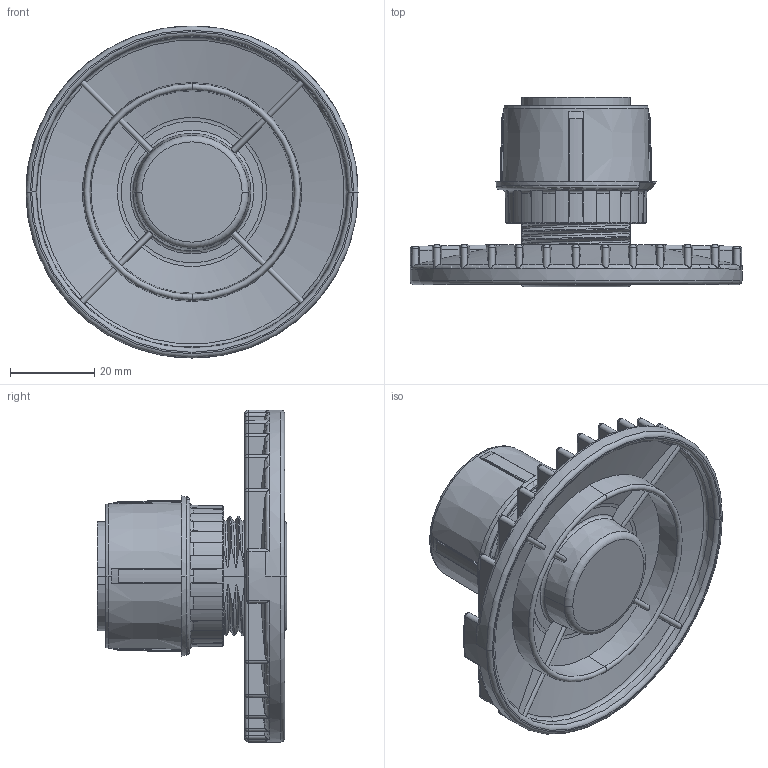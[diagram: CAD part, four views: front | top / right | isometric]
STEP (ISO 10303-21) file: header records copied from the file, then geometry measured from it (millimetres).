
FILE_DESCRIPTION((''),'2;1');
FILE_NAME('69_4052_ASM','2014-10-29T',('hha'),(''),'PRO/ENGINEER BY PARAMETRIC TECHNOLOGY CORPORATION, 2012360','PRO/ENGINEER BY PARAMETRIC TECHNOLOGY CORPORATION, 2012360','');
FILE_SCHEMA(('CONFIG_CONTROL_DESIGN'));
Length unit declared in the file: millimetre
Products named in the file (3): 69_6104; 69_0099; 69_4052_ASM
Assembly tree (2 placements, depth 2):
  69_4052_ASM
    69_6104
    69_0099
Bounding box: 78.8 x 45 x 78.8 mm (x, y, z)
Volume: 31527.8 mm3; surface area: 32546.4 mm2
Topology: 2 solids, 2 shells, 713 faces, 1910 edges, 1208 vertices
Faces by surface type: cylinder 186, plane 177, bspline 142, torus 95, cone 91, sphere 22
Entity records: 60667 total; most frequent: CARTESIAN_POINT 45029, ORIENTED_EDGE 3820, DIRECTION 2407, EDGE_CURVE 1910, VERTEX_POINT 1208, B_SPLINE_CURVE_WITH_KNOTS 1035, AXIS2_PLACEMENT_3D 956, EDGE_LOOP 722
